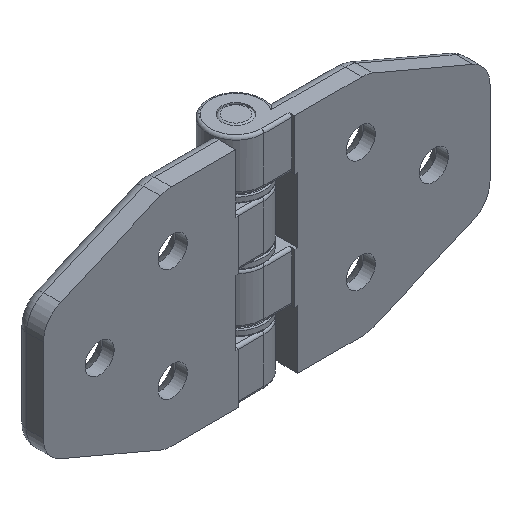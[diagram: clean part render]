
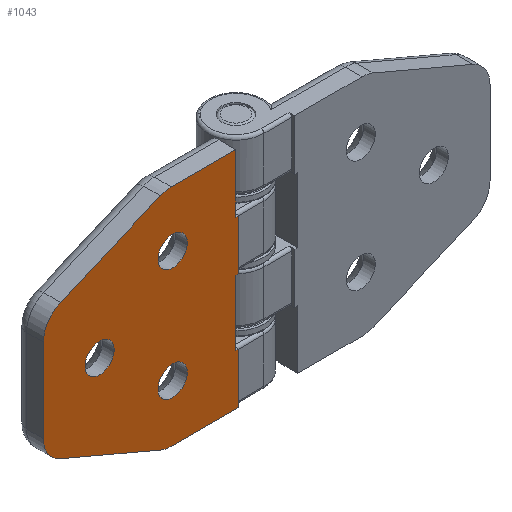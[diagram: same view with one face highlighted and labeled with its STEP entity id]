
A CAD part, isometric view. The second image highlights one B-rep face of the part: STEP entity #1043.
In plain terms, the highlighted planar face has unit normal (0, -1, 0).
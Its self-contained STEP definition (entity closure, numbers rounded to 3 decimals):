
#47=FACE_BOUND('',#356,.T.);
#48=FACE_BOUND('',#357,.T.);
#49=FACE_BOUND('',#358,.T.);
#83=PLANE('',#1162);
#102=LINE('',#1614,#159);
#107=LINE('',#1647,#164);
#114=LINE('',#1682,#171);
#119=LINE('',#1715,#176);
#135=LINE('',#1794,#192);
#136=LINE('',#1814,#193);
#139=LINE('',#1820,#196);
#140=LINE('',#1822,#197);
#142=LINE('',#1826,#199);
#143=LINE('',#1830,#200);
#144=LINE('',#1834,#201);
#145=LINE('',#1838,#202);
#159=VECTOR('',#1250,0.525);
#164=VECTOR('',#1271,0.525);
#171=VECTOR('',#1294,0.525);
#176=VECTOR('',#1315,12.006);
#192=VECTOR('',#1395,10.4);
#193=VECTOR('',#1422,11.6);
#196=VECTOR('',#1431,9.);
#197=VECTOR('',#1434,9.);
#199=VECTOR('',#1438,11.481);
#200=VECTOR('',#1441,19.309);
#201=VECTOR('',#1444,14.886);
#202=VECTOR('',#1447,19.309);
#272=FACE_OUTER_BOUND('',#355,.T.);
#355=EDGE_LOOP('',(#885,#886,#887,#888,#889,#890,#891,#892,#893,#894,#895,
#896,#897,#898,#899,#900));
#356=EDGE_LOOP('',(#901));
#357=EDGE_LOOP('',(#902));
#358=EDGE_LOOP('',(#903));
#463=CIRCLE('',#1148,2.6);
#465=CIRCLE('',#1152,2.6);
#467=CIRCLE('',#1156,2.6);
#468=CIRCLE('',#1163,5.);
#469=CIRCLE('',#1164,5.);
#470=CIRCLE('',#1165,5.);
#471=CIRCLE('',#1166,5.);
#500=VERTEX_POINT('',#1608);
#502=VERTEX_POINT('',#1612);
#511=VERTEX_POINT('',#1644);
#512=VERTEX_POINT('',#1646);
#520=VERTEX_POINT('',#1676);
#522=VERTEX_POINT('',#1680);
#531=VERTEX_POINT('',#1712);
#532=VERTEX_POINT('',#1714);
#555=VERTEX_POINT('',#1792);
#557=VERTEX_POINT('',#1799);
#559=VERTEX_POINT('',#1805);
#561=VERTEX_POINT('',#1811);
#562=VERTEX_POINT('',#1825);
#563=VERTEX_POINT('',#1827);
#564=VERTEX_POINT('',#1829);
#565=VERTEX_POINT('',#1831);
#566=VERTEX_POINT('',#1833);
#567=VERTEX_POINT('',#1835);
#568=VERTEX_POINT('',#1837);
#601=EDGE_CURVE('',#500,#502,#102,.T.);
#612=EDGE_CURVE('',#512,#511,#107,.T.);
#625=EDGE_CURVE('',#520,#522,#114,.T.);
#636=EDGE_CURVE('',#531,#532,#119,.T.);
#674=EDGE_CURVE('',#502,#555,#135,.T.);
#676=EDGE_CURVE('',#557,#557,#463,.T.);
#678=EDGE_CURVE('',#559,#559,#465,.T.);
#680=EDGE_CURVE('',#561,#561,#467,.T.);
#681=EDGE_CURVE('',#522,#512,#136,.T.);
#684=EDGE_CURVE('',#511,#500,#139,.T.);
#685=EDGE_CURVE('',#531,#520,#140,.T.);
#687=EDGE_CURVE('',#562,#555,#142,.T.);
#688=EDGE_CURVE('',#563,#562,#468,.T.);
#689=EDGE_CURVE('',#563,#564,#143,.T.);
#690=EDGE_CURVE('',#565,#564,#469,.T.);
#691=EDGE_CURVE('',#565,#566,#144,.T.);
#692=EDGE_CURVE('',#567,#566,#470,.T.);
#693=EDGE_CURVE('',#567,#568,#145,.T.);
#694=EDGE_CURVE('',#532,#568,#471,.T.);
#885=ORIENTED_EDGE('',*,*,#625,.T.);
#886=ORIENTED_EDGE('',*,*,#681,.T.);
#887=ORIENTED_EDGE('',*,*,#612,.T.);
#888=ORIENTED_EDGE('',*,*,#684,.T.);
#889=ORIENTED_EDGE('',*,*,#601,.T.);
#890=ORIENTED_EDGE('',*,*,#674,.T.);
#891=ORIENTED_EDGE('',*,*,#687,.F.);
#892=ORIENTED_EDGE('',*,*,#688,.F.);
#893=ORIENTED_EDGE('',*,*,#689,.T.);
#894=ORIENTED_EDGE('',*,*,#690,.F.);
#895=ORIENTED_EDGE('',*,*,#691,.T.);
#896=ORIENTED_EDGE('',*,*,#692,.F.);
#897=ORIENTED_EDGE('',*,*,#693,.T.);
#898=ORIENTED_EDGE('',*,*,#694,.F.);
#899=ORIENTED_EDGE('',*,*,#636,.F.);
#900=ORIENTED_EDGE('',*,*,#685,.T.);
#901=ORIENTED_EDGE('',*,*,#676,.T.);
#902=ORIENTED_EDGE('',*,*,#678,.T.);
#903=ORIENTED_EDGE('',*,*,#680,.T.);
#1043=ADVANCED_FACE('',(#272,#47,#48,#49),#83,.T.);
#1148=AXIS2_PLACEMENT_3D('',#1800,#1402,#1403);
#1152=AXIS2_PLACEMENT_3D('',#1806,#1410,#1411);
#1156=AXIS2_PLACEMENT_3D('',#1812,#1418,#1419);
#1162=AXIS2_PLACEMENT_3D('',#1824,#1436,#1437);
#1163=AXIS2_PLACEMENT_3D('',#1828,#1439,#1440);
#1164=AXIS2_PLACEMENT_3D('',#1832,#1442,#1443);
#1165=AXIS2_PLACEMENT_3D('',#1836,#1445,#1446);
#1166=AXIS2_PLACEMENT_3D('',#1839,#1448,#1449);
#1250=DIRECTION('',(1.,0.,0.));
#1271=DIRECTION('',(-1.,0.,0.));
#1294=DIRECTION('',(1.,0.,0.));
#1315=DIRECTION('',(1.,0.,0.));
#1395=DIRECTION('',(0.,0.,-1.));
#1402=DIRECTION('center_axis',(0.,1.,0.));
#1403=DIRECTION('ref_axis',(1.,0.,0.));
#1410=DIRECTION('center_axis',(0.,1.,0.));
#1411=DIRECTION('ref_axis',(1.,0.,0.));
#1418=DIRECTION('center_axis',(0.,1.,0.));
#1419=DIRECTION('ref_axis',(1.,0.,0.));
#1422=DIRECTION('',(0.,0.,-1.));
#1431=DIRECTION('',(0.,0.,-1.));
#1434=DIRECTION('',(0.,0.,-1.));
#1436=DIRECTION('center_axis',(0.,-1.,0.));
#1437=DIRECTION('ref_axis',(1.,0.,0.));
#1438=DIRECTION('',(-1.,0.,0.));
#1439=DIRECTION('center_axis',(0.,1.,0.));
#1440=DIRECTION('ref_axis',(0.2,0.,-0.98));
#1441=DIRECTION('',(0.92,0.,0.391));
#1442=DIRECTION('center_axis',(0.,1.,0.));
#1443=DIRECTION('ref_axis',(0.834,0.,-0.552));
#1444=DIRECTION('',(0.,0.,1.));
#1445=DIRECTION('center_axis',(0.,1.,0.));
#1446=DIRECTION('ref_axis',(0.834,0.,0.552));
#1447=DIRECTION('',(-0.92,0.,0.391));
#1448=DIRECTION('center_axis',(0.,1.,0.));
#1449=DIRECTION('ref_axis',(0.2,0.,0.98));
#1608=CARTESIAN_POINT('',(4.975,0.,-9.6));
#1612=CARTESIAN_POINT('',(5.5,0.,-9.6));
#1614=CARTESIAN_POINT('',(-3.009,0.,-9.6));
#1644=CARTESIAN_POINT('',(4.975,0.,-0.6));
#1646=CARTESIAN_POINT('',(5.5,0.,-0.6));
#1647=CARTESIAN_POINT('',(5.237,0.,-0.6));
#1676=CARTESIAN_POINT('',(4.975,0.,11.));
#1680=CARTESIAN_POINT('',(5.5,0.,11.));
#1682=CARTESIAN_POINT('',(-3.009,0.,11.));
#1712=CARTESIAN_POINT('',(4.975,0.,20.));
#1714=CARTESIAN_POINT('',(16.981,0.,20.));
#1715=CARTESIAN_POINT('',(4.975,0.,20.));
#1792=CARTESIAN_POINT('',(5.5,0.,-20.));
#1794=CARTESIAN_POINT('',(5.5,0.,-4.8));
#1799=CARTESIAN_POINT('',(14.15,0.,10.));
#1800=CARTESIAN_POINT('Origin',(16.75,0.,10.));
#1805=CARTESIAN_POINT('',(14.15,0.,-10.));
#1806=CARTESIAN_POINT('Origin',(16.75,0.,-10.));
#1811=CARTESIAN_POINT('',(27.15,0.,0.));
#1812=CARTESIAN_POINT('Origin',(29.75,0.,0.));
#1814=CARTESIAN_POINT('',(5.5,0.,5.5));
#1820=CARTESIAN_POINT('',(4.975,0.,0.));
#1822=CARTESIAN_POINT('',(4.975,0.,0.));
#1824=CARTESIAN_POINT('Origin',(4.975,0.,0.));
#1825=CARTESIAN_POINT('',(16.981,0.,-20.));
#1826=CARTESIAN_POINT('',(4.975,0.,-20.));
#1827=CARTESIAN_POINT('',(18.938,0.,-19.601));
#1828=CARTESIAN_POINT('Origin',(16.981,0.,-15.));
#1829=CARTESIAN_POINT('',(36.707,0.,-12.044));
#1830=CARTESIAN_POINT('',(26.961,0.,-16.189));
#1831=CARTESIAN_POINT('',(39.75,0.,-7.443));
#1832=CARTESIAN_POINT('Origin',(34.75,0.,-7.443));
#1833=CARTESIAN_POINT('',(39.75,0.,7.443));
#1834=CARTESIAN_POINT('',(39.75,0.,0.));
#1835=CARTESIAN_POINT('',(36.707,0.,12.044));
#1836=CARTESIAN_POINT('Origin',(34.75,0.,7.443));
#1837=CARTESIAN_POINT('',(18.938,0.,19.601));
#1838=CARTESIAN_POINT('',(16.086,0.,20.814));
#1839=CARTESIAN_POINT('Origin',(16.981,0.,15.));
